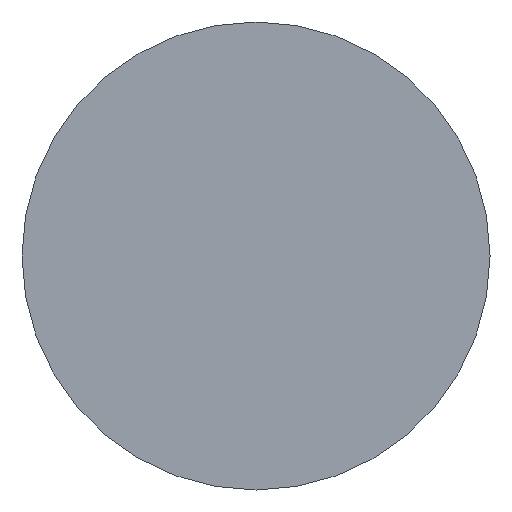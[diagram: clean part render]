
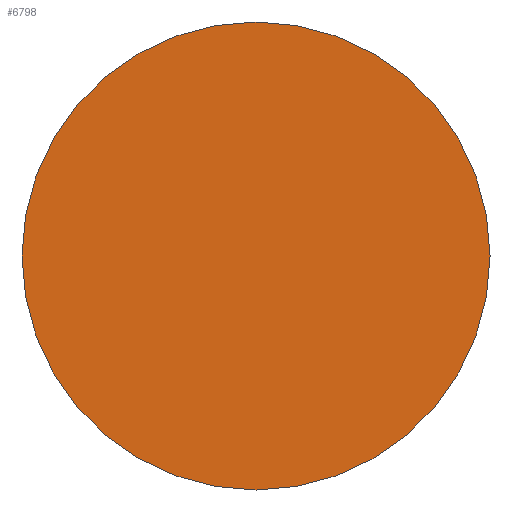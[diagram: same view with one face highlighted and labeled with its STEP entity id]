
A CAD part, front view. The second image highlights one B-rep face of the part: STEP entity #6798.
In plain terms, the highlighted planar face has unit normal (0, -1, 0).
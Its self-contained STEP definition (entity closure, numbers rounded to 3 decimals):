
#1149 = DIRECTION ( 'NONE',  ( 0., 0., 1. ) ) ;
#2194 = EDGE_LOOP ( 'NONE', ( #9554, #7065 ) ) ;
#2263 = AXIS2_PLACEMENT_3D ( 'NONE', #10901, #7153, #1149 ) ;
#4249 = EDGE_CURVE ( 'NONE', #12379, #11395, #9885, .T. ) ;
#4632 = CIRCLE ( 'NONE', #6729, 30. ) ;
#4894 = CARTESIAN_POINT ( 'NONE',  ( 0., 0., 0. ) ) ;
#5139 = CARTESIAN_POINT ( 'NONE',  ( 0., 0., -30. ) ) ;
#5235 = PLANE ( 'NONE',  #11905 ) ;
#6729 = AXIS2_PLACEMENT_3D ( 'NONE', #4894, #9979, #9812 ) ;
#6798 = ADVANCED_FACE ( 'NONE', ( #13025 ), #5235, .F. ) ;
#7065 = ORIENTED_EDGE ( 'NONE', *, *, #11756, .F. ) ;
#7153 = DIRECTION ( 'NONE',  ( 0., 1., 0. ) ) ;
#8579 = DIRECTION ( 'NONE',  ( 0., 1., 0. ) ) ;
#9554 = ORIENTED_EDGE ( 'NONE', *, *, #4249, .F. ) ;
#9812 = DIRECTION ( 'NONE',  ( 0., 0., 1. ) ) ;
#9885 = CIRCLE ( 'NONE', #2263, 30. ) ;
#9979 = DIRECTION ( 'NONE',  ( 0., 1., 0. ) ) ;
#10901 = CARTESIAN_POINT ( 'NONE',  ( 0., 0., 0. ) ) ;
#11271 = CARTESIAN_POINT ( 'NONE',  ( 0., 0., 30. ) ) ;
#11395 = VERTEX_POINT ( 'NONE', #11271 ) ;
#11424 = CARTESIAN_POINT ( 'NONE',  ( 0., 0., 0. ) ) ;
#11756 = EDGE_CURVE ( 'NONE', #11395, #12379, #4632, .T. ) ;
#11905 = AXIS2_PLACEMENT_3D ( 'NONE', #11424, #8579, #12576 ) ;
#12379 = VERTEX_POINT ( 'NONE', #5139 ) ;
#12576 = DIRECTION ( 'NONE',  ( 0., 0., 1. ) ) ;
#13025 = FACE_OUTER_BOUND ( 'NONE', #2194, .T. ) ;
